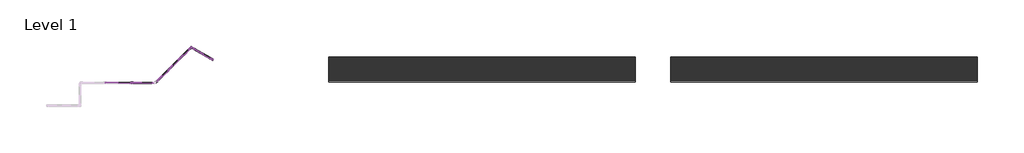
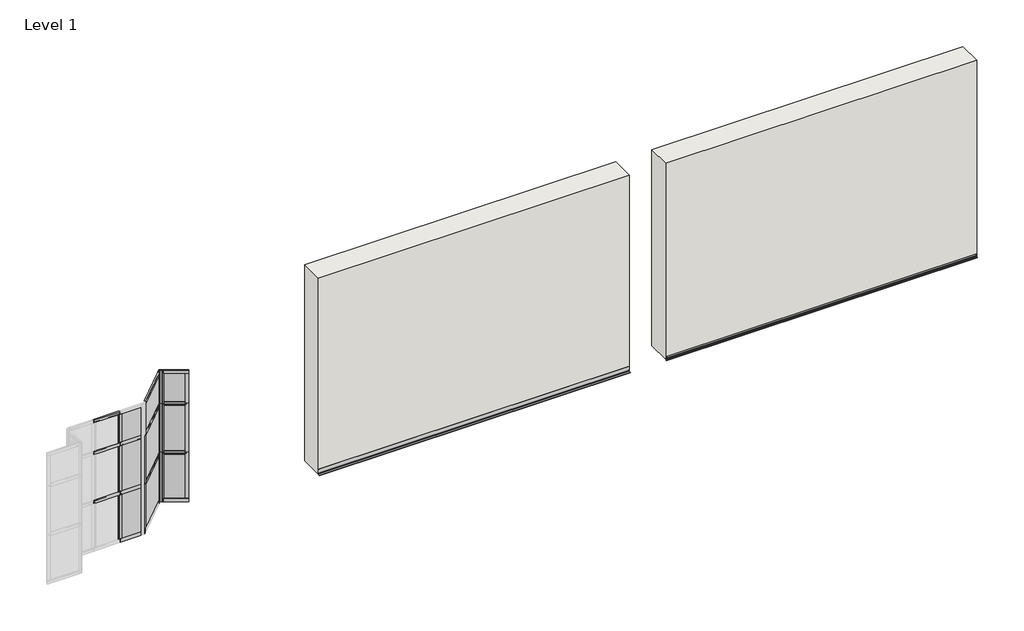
# One storey, part 2 of 2: 27 members, 9 plates, 2 proxies, 2 walls.
"""IFC4 building model written with IfcOpenShell, lengths in millimetres."""

from ifc_helpers import new_model, si_unit, point, frame, frame_2d, origin, place, context, project, spatial, polyline, circle_curve, trimmed, segment, composite_curve, outline, extrude, faceted_brep, transform, mapped, element, save
from ifc_brep_helpers import plane_surface, revolved_surface, advanced_brep
from components import rectangular_mullion_5f43d4da, rectangular_mullion_71dfe0ef, rectangular_mullion_2b6e40d8, rectangular_mullion_a9ab8418, rectangular_mullion_94220d95, rectangular_mullion_bb838922, rectangular_mullion_1c477761, rectangular_mullion_37b364d7, rectangular_mullion_quickpanel_absolute_general_horizontal_1e457ea4, rectangular_mullion_quickpanel_absolute_general_horizontal_21c7a952, rectangular_mullion_quickpanel_absolute_general_horizontal_0a3c93b0, rectangular_mullion_quickpanel_absolute_general_horizontal_835954e1, rectangular_mullion_quickpanel_absolute_general_horizontal_18084e16, rectangular_mullion_quickpanel_absolute_soffit_termination_7d0f6c1f, rectangular_mullion_quickpanel_absolute_soffit_termination_797cf90f, rectangular_mullion_quickpanel_absolute_soffit_termination_359a7f8f, rectangular_mullion_quickpanel_absolute_vertical_main_wall_8224364b, rectangular_mullion_quickpanel_absolute_vertical_main_wall_ff86f56e, rectangular_mullion_quickpanel_absolute_vertical_termination_d4317863, rectangular_mullion_quickpanel_absolute_vertical_termination_ddd3165f, rectangular_mullion_quickpanel_absolute_vertical_termination_7cd4f9f9, quickpanel_4mm_acm_panel_4mm_acm_0aa18a6e, quickpanel_4mm_acm_panel_4mm_acm_61124f30, quickpanel_4mm_acm_panel_4mm_acm_660401e3, quickpanel_4mm_acm_panel_4mm_acm_ee801b86, quickpanel_4mm_acm_panel_4mm_acm_fba89c42, quickpanel_4mm_acm_panel_4mm_acm_bb4c849f, quickpanel_4mm_acm_panel_4mm_acm_3087cd6a, quickpanel_4mm_acm_panel_4mm_acm_21645d57, quickpanel_4mm_acm_panel_4mm_acm_415f7794

model = new_model("IFC4")

# Units and contexts
model_context = context("Model", 3, world=origin())
ifc_project = project(units=[si_unit("LENGTHUNIT", "METRE", prefix="MILLI")], contexts=[model_context])

# Site, building, storey
site = spatial("IfcSite", under=ifc_project)
building = spatial("IfcBuilding", under=site)
storey = spatial("IfcBuildingStorey", under=building, Name="Level 1", Elevation=0.0)

# Proxies
placement = place(None, origin())
element("IfcBuildingElementProxy", 1, Name="QuickPanel-Systems-Reveal-Flashing-QP07F", ObjectType="QuickPanel-Systems-Reveal-Flashing-QP07F", at=placement, inside=storey, context=model_context, shape_type="SweptSolid", body=[
    extrude(outline(composite_curve([segment(polyline([(1954.3018095, 0.9142392), (1954.3018095, -6.3449473), (1953.5080595, -6.3449473), (1953.5080595, 1.5802745), (1972.6360587, 4.9530568), (1972.6360587, 17.98086), (1973.1598194, 18.7272814)]), True, "CONTINUOUS"), segment(trimmed(circle_curve(frame_2d((1973.041422, 19.054607)), 0.3480805), [point((1973.1598194, 18.7272814))], [point((1973.1598194, 19.3819326))], True, "CARTESIAN"), True, "CONTINUOUS"), segment(polyline([(1973.1598194, 19.3819326), (1972.6360587, 20.1283539), (1972.6360587, 82.5550527), (1973.4298087, 82.5550527), (1973.4298087, 20.1283539)]), True, "CONTINUOUS"), segment(trimmed(circle_curve(frame_2d((1973.041422, 19.054607)), 1.1418305), [point((1973.4298087, 20.1283539))], [point((1973.4298087, 17.98086))], False, "CARTESIAN"), True, "CONTINUOUS"), segment(polyline([(1973.4298087, 17.98086), (1973.4298087, 5.0086486)]), True, "CONTINUOUS"), segment(trimmed(circle_curve(frame_2d((1972.5825354, 4.9979682)), 0.8473406), [point((1973.4298087, 5.0086486))], [point((1972.7191447, 4.1617123))], False, "CARTESIAN"), True, "CONTINUOUS"), segment(polyline([(1972.7191447, 4.1617123), (1954.3018095, 0.9142392)]), True, "CONTINUOUS")], self_intersect=False)), frame((2085.2192155, 0.0, 0.0), z_axis=(1.0, 0.0, 0.0), x_axis=(0.0, 1.0, 0.0)), (0.0, 0.0, 1.0), 4572.0),
])
element("IfcBuildingElementProxy", 2, Name="QuickPanel-Systems-Reveal-Flashing-QP07WSF", ObjectType="QuickPanel-Systems-Reveal-Flashing-QP07WSF", at=placement, inside=storey, context=model_context, shape_type="SweptSolid", body=[
    extrude(outline(composite_curve([segment(polyline([(1954.3018095, -4.0944095), (1954.3018095, -11.3535959), (1953.5080595, -11.3535959), (1953.5080595, -3.4283741), (1972.6360587, -0.0555918), (1972.6360587, 12.9722114), (1973.1598194, 13.7186328)]), True, "CONTINUOUS"), segment(trimmed(circle_curve(frame_2d((1973.041422, 14.0459583)), 0.3480805), [point((1973.1598194, 13.7186328))], [point((1973.1598194, 14.3732839))], True, "CARTESIAN"), True, "CONTINUOUS"), segment(polyline([(1973.1598194, 14.3732839), (1972.6360587, 15.1197053), (1972.6360587, 39.4464041), (1973.4298087, 39.4464041), (1973.4298087, 15.1197053)]), True, "CONTINUOUS"), segment(trimmed(circle_curve(frame_2d((1973.041422, 14.0459583)), 1.1418305), [point((1973.4298087, 15.1197053))], [point((1973.4298087, 12.9722114))], False, "CARTESIAN"), True, "CONTINUOUS"), segment(polyline([(1973.4298087, 12.9722114), (1973.4298087, 0.0)]), True, "CONTINUOUS"), segment(trimmed(circle_curve(frame_2d((1972.5825354, -0.0106804)), 0.8473406), [point((1973.4298087, 0.0))], [point((1972.7191447, -0.8469364))], False, "CARTESIAN"), True, "CONTINUOUS"), segment(polyline([(1972.7191447, -0.8469364), (1954.3018095, -4.0944095)]), True, "CONTINUOUS")], self_intersect=False)), frame((7190.6192155, 0.0, 0.0), z_axis=(1.0, 0.0, 0.0), x_axis=(0.0, 1.0, 0.0)), (0.0, 0.0, 1.0), 4572.0),
])

# Members
rectangular_mullion_shape = rectangular_mullion_5f43d4da(model_context)
element("IfcMember", 3, ObjectType="Rectangular Mullion : QuickPanel-Absolute_Multi-Angle-Outside-Corner-Trim-Left", at=placement, inside=storey, context=model_context, shape_type="MappedRepresentation", body=[
    mapped(rectangular_mullion_shape, transform((-497.1888824, 1940.7852714, 763.4314025), x_axis=(-0.7071067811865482, -0.7071067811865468, 0.0), y_axis=(0.7071067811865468, -0.7071067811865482, 0.0), z_axis=(0.0, 0.0, 1.0))),
])
rectangular_mullion_2_shape = rectangular_mullion_71dfe0ef(model_context)
element("IfcMember", 4, ObjectType="Rectangular Mullion : QuickPanel-Absolute_Multi-Angle-Outside-Corner-Trim-Left", at=placement, inside=storey, context=model_context, shape_type="MappedRepresentation", body=[
    mapped(rectangular_mullion_2_shape, transform((-497.1888824, 1940.7852714, 1525.4314025), x_axis=(-0.7071067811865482, -0.7071067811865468, 0.0), y_axis=(0.7071067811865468, -0.7071067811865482, 0.0), z_axis=(0.0, 0.0, 1.0))),
])
rectangular_mullion_3_shape = rectangular_mullion_2b6e40d8(model_context)
element("IfcMember", 5, ObjectType="Rectangular Mullion : QuickPanel-Absolute_Multi-Angle-Inside-Corner-Trim-Right", at=placement, inside=storey, context=model_context, shape_type="MappedRepresentation", body=[
    mapped(rectangular_mullion_3_shape, transform((41.6264849, 2479.6006387, 0.0), x_axis=(0.7071067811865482, 0.7071067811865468, 0.0), y_axis=(0.7071067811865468, -0.7071067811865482, 0.0), z_axis=(0.0, 0.0, -1.0))),
])
rectangular_mullion_4_shape = rectangular_mullion_a9ab8418(model_context)
element("IfcMember", 6, ObjectType="Rectangular Mullion : QuickPanel-Absolute_Multi-Angle-Inside-Corner-Trim-Right", at=placement, inside=storey, context=model_context, shape_type="MappedRepresentation", body=[
    mapped(rectangular_mullion_4_shape, transform((41.6264849, 2479.6006387, 763.4314025), x_axis=(0.7071067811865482, 0.7071067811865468, 0.0), y_axis=(0.7071067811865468, -0.7071067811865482, 0.0), z_axis=(0.0, 0.0, -1.0))),
])
rectangular_mullion_5_shape = rectangular_mullion_94220d95(model_context)
element("IfcMember", 7, ObjectType="Rectangular Mullion : QuickPanel-Absolute_Multi-Angle-Inside-Corner-Trim-Right", at=placement, inside=storey, context=model_context, shape_type="MappedRepresentation", body=[
    mapped(rectangular_mullion_5_shape, transform((41.6264849, 2479.6006387, 1525.4314025), x_axis=(0.7071067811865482, 0.7071067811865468, 0.0), y_axis=(0.7071067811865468, -0.7071067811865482, 0.0), z_axis=(0.0, 0.0, -1.0))),
])
rectangular_mullion_6_shape = rectangular_mullion_bb838922(model_context)
element("IfcMember", 8, ObjectType="Rectangular Mullion : QuickPanel-Absolute_Projecting-Window-Sill-Trim", at=placement, inside=storey, context=model_context, shape_type="MappedRepresentation", body=[
    mapped(rectangular_mullion_6_shape, transform((-855.4669421, 1940.610475, 763.2962426), x_axis=(0.0, 0.0, 1.0), y_axis=(0.0, -1.0, 0.0), z_axis=(1.0, 0.0, 0.0))),
])
rectangular_mullion_7_shape = rectangular_mullion_1c477761(model_context)
element("IfcMember", 9, ObjectType="Rectangular Mullion : QuickPanel-Absolute_Projecting-Window-Jamb-Trim-Left", at=placement, inside=storey, context=model_context, shape_type="MappedRepresentation", body=[
    mapped(rectangular_mullion_7_shape, transform((-855.4669421, 1940.610475, 791.7293373), x_axis=(1.0, 0.0, 0.0), y_axis=(0.0, -1.0, 0.0), z_axis=(0.0, 0.0, -1.0))),
])
rectangular_mullion_8_shape = rectangular_mullion_37b364d7(model_context)
element("IfcMember", 10, ObjectType="Rectangular Mullion : QuickPanel-Absolute_Projecting-Window-Jamb-Trim-Top", at=placement, inside=storey, context=model_context, shape_type="MappedRepresentation", body=[
    mapped(rectangular_mullion_8_shape, transform((-855.4669421, 1940.610475, 1525.2962426), x_axis=(0.0, 0.0, 1.0), y_axis=(0.0, -1.0, 0.0), z_axis=(1.0, 0.0, 0.0))),
])
element("IfcMember", 11, ObjectType="Rectangular Mullion : QuickPanel-Absolute_Multi-Angle-Inside-Corner-Trim-Left", at=placement, inside=storey, context=model_context, shape_type="MappedRepresentation", body=[
    mapped(rectangular_mullion_5_shape, transform((30.4605958, 2478.1221204, 2032.0), x_axis=(-0.8660254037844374, 0.5000000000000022, 0.0), y_axis=(-0.5000000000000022, -0.8660254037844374, 0.0), z_axis=(0.0, 0.0, 1.0))),
])
element("IfcMember", 12, ObjectType="Rectangular Mullion : QuickPanel-Absolute_Multi-Angle-Inside-Corner-Trim-Left", at=placement, inside=storey, context=model_context, shape_type="MappedRepresentation", body=[
    mapped(rectangular_mullion_3_shape, transform((30.4605958, 2478.1221204, 763.4314025), x_axis=(-0.8660254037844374, 0.5000000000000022, 0.0), y_axis=(-0.5000000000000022, -0.8660254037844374, 0.0), z_axis=(0.0, 0.0, 1.0))),
])
element("IfcMember", 13, ObjectType="Rectangular Mullion : QuickPanel-Absolute_Multi-Angle-Inside-Corner-Trim-Left", at=placement, inside=storey, context=model_context, shape_type="MappedRepresentation", body=[
    mapped(rectangular_mullion_4_shape, transform((30.4605958, 2478.1221204, 1525.4314025), x_axis=(-0.8660254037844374, 0.5000000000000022, 0.0), y_axis=(-0.5000000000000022, -0.8660254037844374, 0.0), z_axis=(0.0, 0.0, 1.0))),
])
rectangular_mullion_quickpanel_absolute_general_horizontal_shape = rectangular_mullion_quickpanel_absolute_general_horizontal_1e457ea4(model_context)
element("IfcMember", 14, ObjectType="Rectangular Mullion : QuickPanel-Absolute_General-Horizontal-Trim", at=placement, inside=storey, context=model_context, shape_type="MappedRepresentation", body=[
    mapped(rectangular_mullion_quickpanel_absolute_general_horizontal_shape, transform((323.4359712, 2308.9727086, 763.4314025), x_axis=(0.0, 0.0, 1.0), y_axis=(-0.5000000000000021, -0.8660254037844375, 0.0), z_axis=(0.8660254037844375, -0.5000000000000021, 0.0))),
])
element("IfcMember", 15, ObjectType="Rectangular Mullion : QuickPanel-Absolute_General-Horizontal-Trim", at=placement, inside=storey, context=model_context, shape_type="MappedRepresentation", body=[
    mapped(rectangular_mullion_quickpanel_absolute_general_horizontal_shape, transform((323.4359712, 2308.9727086, 1525.4314025), x_axis=(0.0, 0.0, 1.0), y_axis=(-0.5000000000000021, -0.8660254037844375, 0.0), z_axis=(0.8660254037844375, -0.5000000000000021, 0.0))),
])
rectangular_mullion_quickpanel_absolute_general_horizontal_2_shape = rectangular_mullion_quickpanel_absolute_general_horizontal_21c7a952(model_context)
element("IfcMember", 16, ObjectType="Rectangular Mullion : QuickPanel-Absolute_General-Horizontal-Trim", at=placement, inside=storey, context=model_context, shape_type="MappedRepresentation", body=[
    mapped(rectangular_mullion_quickpanel_absolute_general_horizontal_2_shape, transform((-855.4669421, 1940.610475, 0.0), x_axis=(0.0, 0.0, -1.0), y_axis=(0.0, -1.0, 0.0), z_axis=(-1.0, 0.0, 0.0))),
])
rectangular_mullion_quickpanel_absolute_general_horizontal_3_shape = rectangular_mullion_quickpanel_absolute_general_horizontal_0a3c93b0(model_context)
element("IfcMember", 17, ObjectType="Rectangular Mullion : QuickPanel-Absolute_General-Horizontal-Trim", at=placement, inside=storey, context=model_context, shape_type="MappedRepresentation", body=[
    mapped(rectangular_mullion_quickpanel_absolute_general_horizontal_3_shape, transform((-544.3754712, 1940.610475, 763.2962426), x_axis=(0.0, 0.0, 1.0), y_axis=(0.0, -1.0, 0.0), z_axis=(1.0, 0.0, 0.0))),
])
element("IfcMember", 18, ObjectType="Rectangular Mullion : QuickPanel-Absolute_General-Horizontal-Trim", at=placement, inside=storey, context=model_context, shape_type="MappedRepresentation", body=[
    mapped(rectangular_mullion_quickpanel_absolute_general_horizontal_3_shape, transform((-544.3754712, 1940.610475, 1525.2962426), x_axis=(0.0, 0.0, 1.0), y_axis=(0.0, -1.0, 0.0), z_axis=(1.0, 0.0, 0.0))),
])
rectangular_mullion_quickpanel_absolute_general_horizontal_4_shape = rectangular_mullion_quickpanel_absolute_general_horizontal_835954e1(model_context)
element("IfcMember", 19, ObjectType="Rectangular Mullion : QuickPanel-Absolute_General-Horizontal-Trim", at=placement, inside=storey, context=model_context, shape_type="MappedRepresentation", body=[
    mapped(rectangular_mullion_quickpanel_absolute_general_horizontal_4_shape, transform((-1.0418051, 2436.9323486, 763.4314025), x_axis=(0.0, 0.0, 1.0), y_axis=(0.7071067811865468, -0.7071067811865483, 0.0), z_axis=(0.7071067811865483, 0.7071067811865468, 0.0))),
])
element("IfcMember", 20, ObjectType="Rectangular Mullion : QuickPanel-Absolute_General-Horizontal-Trim", at=placement, inside=storey, context=model_context, shape_type="MappedRepresentation", body=[
    mapped(rectangular_mullion_quickpanel_absolute_general_horizontal_4_shape, transform((-1.0418051, 2436.9323486, 1525.4314025), x_axis=(0.0, 0.0, 1.0), y_axis=(0.7071067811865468, -0.7071067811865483, 0.0), z_axis=(0.7071067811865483, 0.7071067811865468, 0.0))),
])
rectangular_mullion_quickpanel_absolute_general_horizontal_5_shape = rectangular_mullion_quickpanel_absolute_general_horizontal_18084e16(model_context)
element("IfcMember", 21, ObjectType="Rectangular Mullion : QuickPanel-Absolute_General-Horizontal-Trim", at=placement, inside=storey, context=model_context, shape_type="MappedRepresentation", body=[
    mapped(rectangular_mullion_quickpanel_absolute_general_horizontal_5_shape, transform((82.7183652, 2447.9510832, 0.0), x_axis=(0.0, 0.0, -1.0), y_axis=(-0.5000000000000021, -0.8660254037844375, 0.0), z_axis=(-0.8660254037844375, 0.5000000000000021, 0.0))),
])
rectangular_mullion_quickpanel_absolute_soffit_termination_shape = rectangular_mullion_quickpanel_absolute_soffit_termination_7d0f6c1f(model_context)
element("IfcMember", 22, ObjectType="Rectangular Mullion : QuickPanel-Absolute_Soffit-Termination-Top", at=placement, inside=storey, context=model_context, shape_type="MappedRepresentation", body=[
    mapped(rectangular_mullion_quickpanel_absolute_soffit_termination_shape, transform((-1.0418051, 2436.9323486, 2032.0), x_axis=(0.0, 0.0, 1.0), y_axis=(0.7071067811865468, -0.7071067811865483, 0.0), z_axis=(0.7071067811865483, 0.7071067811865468, 0.0))),
])
rectangular_mullion_quickpanel_absolute_soffit_termination_2_shape = rectangular_mullion_quickpanel_absolute_soffit_termination_797cf90f(model_context)
element("IfcMember", 23, ObjectType="Rectangular Mullion : QuickPanel-Absolute_Soffit-Termination-Top", at=placement, inside=storey, context=model_context, shape_type="MappedRepresentation", body=[
    mapped(rectangular_mullion_quickpanel_absolute_soffit_termination_2_shape, transform((360.4162746, 2287.6221204, 2032.0), x_axis=(0.0, 0.0, 1.0), y_axis=(-0.5000000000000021, -0.8660254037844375, 0.0), z_axis=(0.8660254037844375, -0.5000000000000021, 0.0))),
])
rectangular_mullion_quickpanel_absolute_soffit_termination_3_shape = rectangular_mullion_quickpanel_absolute_soffit_termination_359a7f8f(model_context)
element("IfcMember", 24, ObjectType="Rectangular Mullion : QuickPanel-Absolute_Soffit-Termination-Top", at=placement, inside=storey, context=model_context, shape_type="MappedRepresentation", body=[
    mapped(rectangular_mullion_quickpanel_absolute_soffit_termination_3_shape, transform((-855.4669421, 1940.610475, 2032.0), x_axis=(0.0, 0.0, 1.0), y_axis=(0.0, -1.0, 0.0), z_axis=(1.0, 0.0, 0.0))),
])
rectangular_mullion_quickpanel_absolute_vertical_main_wall_shape = rectangular_mullion_quickpanel_absolute_vertical_main_wall_8224364b(model_context)
element("IfcMember", 25, ObjectType="Rectangular Mullion : QuickPanel-Absolute_Vertical-Main-Wall-Trim", at=placement, inside=storey, context=model_context, shape_type="MappedRepresentation", body=[
    mapped(rectangular_mullion_quickpanel_absolute_vertical_main_wall_shape, transform((-855.4669421, 1940.610475, 53.975), x_axis=(1.0, 0.0, 0.0), y_axis=(0.0, -1.0, 0.0), z_axis=(0.0, 0.0, -1.0))),
])
rectangular_mullion_quickpanel_absolute_vertical_main_wall_2_shape = rectangular_mullion_quickpanel_absolute_vertical_main_wall_ff86f56e(model_context)
element("IfcMember", 26, ObjectType="Rectangular Mullion : QuickPanel-Absolute_Vertical-Main-Wall-Trim", at=placement, inside=storey, context=model_context, shape_type="MappedRepresentation", body=[
    mapped(rectangular_mullion_quickpanel_absolute_vertical_main_wall_2_shape, transform((-855.4669421, 1940.610475, 1553.6859501), x_axis=(1.0, 0.0, 0.0), y_axis=(0.0, -1.0, 0.0), z_axis=(0.0, 0.0, -1.0))),
])
rectangular_mullion_quickpanel_absolute_vertical_termination_shape = rectangular_mullion_quickpanel_absolute_vertical_termination_d4317863(model_context)
element("IfcMember", 27, ObjectType="Rectangular Mullion : QuickPanel-Absolute_Vertical-Termination-Trim-Right", at=placement, inside=storey, context=model_context, shape_type="MappedRepresentation", body=[
    mapped(rectangular_mullion_quickpanel_absolute_vertical_termination_shape, transform((360.4162746, 2287.6221204, 53.975), x_axis=(0.8660254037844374, -0.5000000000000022, 0.0), y_axis=(-0.5000000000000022, -0.8660254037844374, 0.0), z_axis=(0.0, 0.0, -1.0))),
])
rectangular_mullion_quickpanel_absolute_vertical_termination_2_shape = rectangular_mullion_quickpanel_absolute_vertical_termination_ddd3165f(model_context)
element("IfcMember", 28, ObjectType="Rectangular Mullion : QuickPanel-Absolute_Vertical-Termination-Trim-Right", at=placement, inside=storey, context=model_context, shape_type="MappedRepresentation", body=[
    mapped(rectangular_mullion_quickpanel_absolute_vertical_termination_2_shape, transform((360.4162746, 2287.6221204, 763.4314025), x_axis=(0.8660254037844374, -0.5000000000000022, 0.0), y_axis=(-0.5000000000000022, -0.8660254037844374, 0.0), z_axis=(0.0, 0.0, -1.0))),
])
rectangular_mullion_quickpanel_absolute_vertical_termination_3_shape = rectangular_mullion_quickpanel_absolute_vertical_termination_7cd4f9f9(model_context)
element("IfcMember", 29, ObjectType="Rectangular Mullion : QuickPanel-Absolute_Vertical-Termination-Trim-Right", at=placement, inside=storey, context=model_context, shape_type="MappedRepresentation", body=[
    mapped(rectangular_mullion_quickpanel_absolute_vertical_termination_3_shape, transform((360.4162746, 2287.6221204, 1525.4314025), x_axis=(0.8660254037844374, -0.5000000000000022, 0.0), y_axis=(-0.5000000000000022, -0.8660254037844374, 0.0), z_axis=(0.0, 0.0, -1.0))),
])

# Plates
quickpanel_4mm_acm_panel_4mm_acm_shape = quickpanel_4mm_acm_panel_4mm_acm_0aa18a6e(model_context)
element("IfcPlate", 30, ObjectType="QuickPanel_4mm-ACM : Panel_4mm-ACM", at=placement, inside=storey, context=model_context, shape_type="MappedRepresentation", body=[
    mapped(quickpanel_4mm_acm_panel_4mm_acm_shape, transform((-232.6010891, 2205.3730646, 1540.1335766), x_axis=(0.7071067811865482, 0.7071067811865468, 0.0), y_axis=(-0.7071067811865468, 0.7071067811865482, 0.0), z_axis=(0.0, 0.0, 1.0))),
])
quickpanel_4mm_acm_panel_4mm_acm_2_shape = quickpanel_4mm_acm_panel_4mm_acm_61124f30(model_context)
element("IfcPlate", 31, ObjectType="QuickPanel_4mm-ACM : Panel_4mm-ACM", at=placement, inside=storey, context=model_context, shape_type="MappedRepresentation", body=[
    mapped(quickpanel_4mm_acm_panel_4mm_acm_2_shape, transform((203.0771682, 2378.4618959, 778.1335766), x_axis=(0.8660254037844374, -0.5000000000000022, 0.0), y_axis=(0.5000000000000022, 0.8660254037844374, 0.0), z_axis=(0.0, 0.0, 1.0))),
])
quickpanel_4mm_acm_panel_4mm_acm_3_shape = quickpanel_4mm_acm_panel_4mm_acm_660401e3(model_context)
element("IfcPlate", 32, ObjectType="QuickPanel_4mm-ACM : Panel_4mm-ACM", at=placement, inside=storey, context=model_context, shape_type="MappedRepresentation", body=[
    mapped(quickpanel_4mm_acm_panel_4mm_acm_3_shape, transform((-680.6583364, 1940.610475, 777.9984168), x_axis=(1.0, 0.0, 0.0), y_axis=(0.0, 1.0, 0.0), z_axis=(0.0, 0.0, 1.0))),
])
quickpanel_4mm_acm_panel_4mm_acm_4_shape = quickpanel_4mm_acm_panel_4mm_acm_ee801b86(model_context)
element("IfcPlate", 33, ObjectType="QuickPanel_4mm-ACM : Panel_4mm-ACM", at=placement, inside=storey, context=model_context, shape_type="MappedRepresentation", body=[
    mapped(quickpanel_4mm_acm_panel_4mm_acm_4_shape, transform((-686.6292093, 1940.610475, 1539.9984168), x_axis=(1.0, 0.0, 0.0), y_axis=(0.0, 1.0, 0.0), z_axis=(0.0, 0.0, 1.0))),
])
quickpanel_4mm_acm_panel_4mm_acm_5_shape = quickpanel_4mm_acm_panel_4mm_acm_fba89c42(model_context)
element("IfcPlate", 34, ObjectType="QuickPanel_4mm-ACM : Panel_4mm-ACM", at=placement, inside=storey, context=model_context, shape_type="MappedRepresentation", body=[
    mapped(quickpanel_4mm_acm_panel_4mm_acm_5_shape, transform((-232.6010891, 2205.3730646, 40.2874667), x_axis=(0.7071067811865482, 0.7071067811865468, 0.0), y_axis=(-0.7071067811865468, 0.7071067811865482, 0.0), z_axis=(0.0, 0.0, 1.0))),
])
quickpanel_4mm_acm_panel_4mm_acm_6_shape = quickpanel_4mm_acm_panel_4mm_acm_bb4c849f(model_context)
element("IfcPlate", 35, ObjectType="QuickPanel_4mm-ACM : Panel_4mm-ACM", at=placement, inside=storey, context=model_context, shape_type="MappedRepresentation", body=[
    mapped(quickpanel_4mm_acm_panel_4mm_acm_6_shape, transform((-232.6010891, 2205.3730646, 778.1335766), x_axis=(0.7071067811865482, 0.7071067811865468, 0.0), y_axis=(-0.7071067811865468, 0.7071067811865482, 0.0), z_axis=(0.0, 0.0, 1.0))),
])
quickpanel_4mm_acm_panel_4mm_acm_7_shape = quickpanel_4mm_acm_panel_4mm_acm_3087cd6a(model_context)
element("IfcPlate", 36, ObjectType="QuickPanel_4mm-ACM : Panel_4mm-ACM", at=placement, inside=storey, context=model_context, shape_type="MappedRepresentation", body=[
    mapped(quickpanel_4mm_acm_panel_4mm_acm_7_shape, transform((-686.6292093, 1940.610475, 40.2874667), x_axis=(1.0, 0.0, 0.0), y_axis=(0.0, 1.0, 0.0), z_axis=(0.0, 0.0, 1.0))),
])
quickpanel_4mm_acm_panel_4mm_acm_8_shape = quickpanel_4mm_acm_panel_4mm_acm_21645d57(model_context)
element("IfcPlate", 37, ObjectType="QuickPanel_4mm-ACM : Panel_4mm-ACM", at=placement, inside=storey, context=model_context, shape_type="MappedRepresentation", body=[
    mapped(quickpanel_4mm_acm_panel_4mm_acm_8_shape, transform((203.0771682, 2378.4618959, 40.2874667), x_axis=(0.8660254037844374, -0.5000000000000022, 0.0), y_axis=(0.5000000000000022, 0.8660254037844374, 0.0), z_axis=(0.0, 0.0, 1.0))),
])
quickpanel_4mm_acm_panel_4mm_acm_9_shape = quickpanel_4mm_acm_panel_4mm_acm_415f7794(model_context)
element("IfcPlate", 38, ObjectType="QuickPanel_4mm-ACM : Panel_4mm-ACM", at=placement, inside=storey, context=model_context, shape_type="MappedRepresentation", body=[
    mapped(quickpanel_4mm_acm_panel_4mm_acm_9_shape, transform((203.0771682, 2378.4618959, 1540.1335766), x_axis=(0.8660254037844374, -0.5000000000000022, 0.0), y_axis=(0.5000000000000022, 0.8660254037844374, 0.0), z_axis=(0.0, 0.0, 1.0))),
])

# Walls
element("IfcWall", 39, ObjectType="Exterior - Brick on Mtl. Stud", at=placement, inside=storey, context=model_context, shape_type="Brep", body=[
    faceted_brep([(2085.2192155, 1973.4298087, 0.0), (6657.2192155, 1973.4298087, 0.0), (6657.2192155, 1973.4298087, 5.0086486), (6657.2192155, 1973.4298087, 17.98086), (6657.2192155, 1973.4298087, 20.1283539), (6657.2192155, 1973.4298087, 82.5550527), (6657.2192155, 1973.4298087, 3048.0), (2085.2192155, 1973.4298087, 3048.0), (2085.2192155, 1973.4298087, 82.5550527), (2085.2192155, 1973.4298087, 20.1283539), (2085.2192155, 1973.4298087, 17.98086), (2085.2192155, 1973.4298087, 4.9872878), (2085.2192155, 2325.8548087, 0.0), (2085.2192155, 2325.8548087, 3048.0), (6657.2192155, 2325.8548087, 3048.0), (6657.2192155, 2325.8548087, 0.0)], [[[0, 1, 2, 3, 4, 5, 6, 7, 8, 9, 10, 11]], [[12, 13, 14, 15]], [[1, 0, 12, 15]], [[6, 5, 4, 3, 2, 1, 15, 14]], [[7, 6, 14, 13]], [[0, 11, 10, 9, 8, 7, 13, 12]]]),
])
element("IfcWall", 40, ObjectType="Exterior - Brick on Mtl. Stud", at=placement, inside=storey, context=model_context, shape_type="AdvancedBrep", body=[
    advanced_brep(
    [(7190.6192155, 1973.4298087, 0.0), (11762.6192155, 1973.4298087, 0.0), (11762.6192155, 1973.4298087, 12.9722114), (7190.6192155, 1973.4298087, 12.9722114), (11762.6192155, 1973.4298087, 3048.0), (7190.6192155, 1973.4298087, 3048.0), (7190.6192155, 1973.4298087, 39.4464041), (7190.6192155, 1973.4298087, 15.1197053), (11762.6192155, 1973.4298087, 15.1197053), (11762.6192155, 1973.4298087, 39.4464041), (11762.6192155, 2325.8548087, 0.0), (7190.6192155, 2325.8548087, 0.0), (7190.6192155, 2325.8548087, 3048.0), (11762.6192155, 2325.8548087, 3048.0)],
    [
        (0, 1),
        (1, 2),
        (2, 3),
        (3, 0),
        (4, 5),
        (5, 6),
        (6, 7),
        (7, 8),
        (8, 9),
        (9, 4),
        (10, 11),
        (11, 12),
        (12, 13),
        (13, 10),
        (0, 11),
        (10, 1),
        (13, 4),
        (8, 2, circle_curve(frame((11762.6192155, 1973.041422, 14.0459583), z_axis=(-1.0, 0.0, 0.0), x_axis=(0.0, -1.0, 0.0)), 1.1418305)),
        (12, 5),
        (3, 7, circle_curve(frame((7190.6192155, 1973.041422, 14.0459583), z_axis=(1.0, 0.0, 0.0), x_axis=(0.0, -1.0, 0.0)), 1.1418305)),
    ],
    [
        plane_surface(frame((7190.6192155, 1973.4298087, 0.0), z_axis=(0.0, -1.0, 0.0), x_axis=(1.0, 0.0, 0.0))),
        plane_surface(frame((7190.6192155, 2325.8548087, 0.0), z_axis=(0.0, 1.0, 0.0), x_axis=(-1.0, 0.0, 0.0))),
        plane_surface(frame((7190.6192155, 1973.4298087, 0.0), z_axis=(0.0, 0.0, -1.0), x_axis=(0.0, 1.0, 0.0))),
        plane_surface(frame((11762.6192155, 1973.4298087, 0.0), z_axis=(1.0, 0.0, 0.0), x_axis=(0.0, 1.0, 0.0))),
        plane_surface(frame((11762.6192155, 1973.4298087, 3048.0), z_axis=(0.0, 0.0, 1.0), x_axis=(0.0, 1.0, 0.0))),
        plane_surface(frame((7190.6192155, 1973.4298087, 3048.0), z_axis=(-1.0, 0.0, 0.0), x_axis=(0.0, 1.0, 0.0))),
        revolved_surface(polyline([(7190.6192155, 1971.8995915, 14.0459583), (11762.6192155, 1971.8995915, 14.0459583)]), (7190.6192155, 1973.041422, 14.0459583), (-1.0, 0.0, 0.0)),
    ],
    [
        (0, [[1, 2, 3, 4]]),
        (0, [[5, 6, 7, 8, 9, 10]]),
        (1, [[11, 12, 13, 14]]),
        (2, [[-1, 15, -11, 16]]),
        (3, [[-14, 17, -10, -9, 18, -2, -16]]),
        (4, [[-5, -17, -13, 19]]),
        (5, [[-12, -15, -4, 20, -7, -6, -19]]),
        (6, [[-8, -20, -3, -18]]),
    ],
),
])

save(model, "model.ifc")
